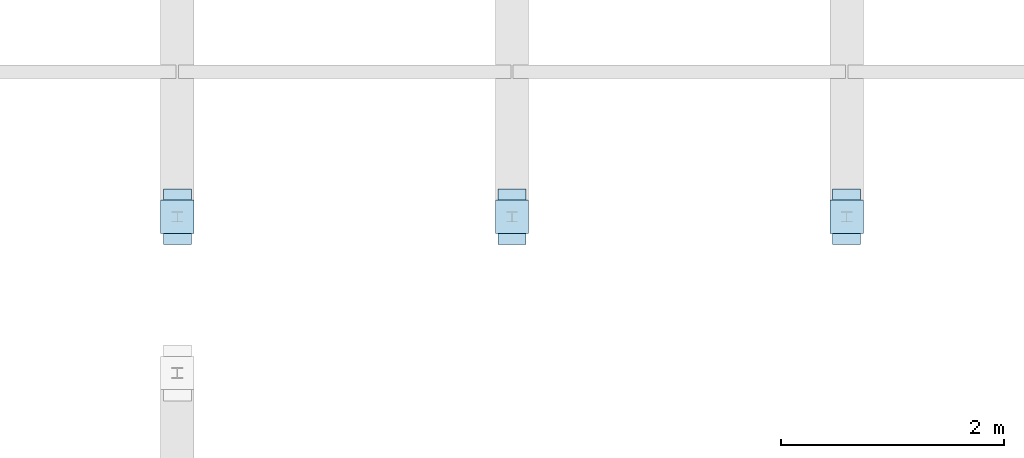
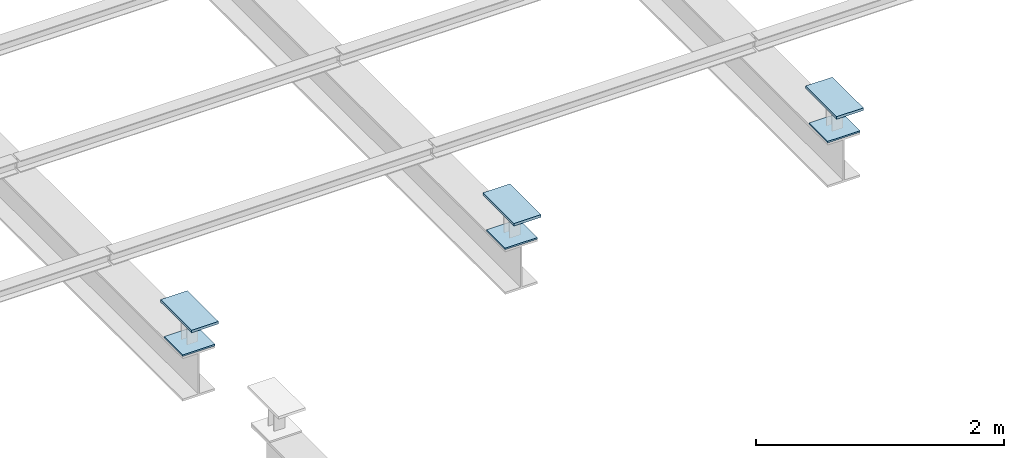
# One storey, part 126 of 139: 6 plates.
"""IFC2X3 building model written with IfcOpenShell, lengths in metres."""

from ifc_helpers import new_model, entity, si_unit, converted_unit, derived_unit, frame, origin, place, context, subcontext, project, spatial, faceted_brep, material, element, save


model = new_model("IFC2X3")

# Units and contexts
model_context = context("Model", 3, precision=1e-05, world=origin())
body_context = subcontext(model_context, "Body", "Model", "MODEL_VIEW")
ifc_project = project(units=[si_unit("LENGTHUNIT", "METRE"), si_unit("AREAUNIT", "SQUARE_METRE"), si_unit("VOLUMEUNIT", "CUBIC_METRE"), si_unit("MASSUNIT", "GRAM", prefix="KILO"), converted_unit("PLANEANGLEUNIT", "DEGREE", entity("IfcPlaneAngleMeasure", 0.0174532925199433), si_unit("PLANEANGLEUNIT", "RADIAN"), dimensions=[0, 0, 0, 0, 0, 0, 0]), derived_unit("THERMALTRANSMITTANCEUNIT", [(si_unit("POWERUNIT", "WATT"), 1), (si_unit("THERMODYNAMICTEMPERATUREUNIT", "KELVIN"), -1), (si_unit("LENGTHUNIT", "METRE"), -2)]), derived_unit("VOLUMETRICFLOWRATEUNIT", [(si_unit("LENGTHUNIT", "METRE"), 3), (converted_unit("TIMEUNIT", "hour", entity("IfcTimeMeasure", 3600.0), si_unit("TIMEUNIT", "SECOND"), dimensions=[0, 0, 1, 0, 0, 0, 0]), -1), (si_unit("LENGTHUNIT", "METRE"), -1)])], contexts=[model_context])

# Site, building, storey
site_placement = place(None, origin())
site = spatial("IfcSite", under=ifc_project, at=site_placement, Name="TWP_Speiseverteilzentrum SBW VZ II", CompositionType="ELEMENT")
building_placement = place(site_placement, origin())
building = spatial("IfcBuilding", under=site, at=building_placement, Name="Speiseverteilzentrum SBW VZ II", CompositionType="ELEMENT")
storey_placement = place(building_placement, frame((0.0, 0.0, 7.1307)))
storey = spatial("IfcBuildingStorey", under=building, at=storey_placement, Name="Wartung_FFB", CompositionType="ELEMENT", Elevation=7.1307)

# Plates
ifc_material_1 = material(Name="S235")
plate_1_placement = place(storey_placement, frame((66.9000000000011, 52.1500000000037, -0.189999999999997)))
element("IfcPlate", 1, at=plate_1_placement, inside=storey, material=ifc_material_1, Name="Verbindungsstück", context=body_context, shape_type="Brep", body=[
    faceted_brep([(0.0, 0.0, 0.015), (0.0, 0.0, 0.0), (0.0, 0.3, 0.0), (0.0, 0.3, 0.015), (0.3, 0.0, 0.015), (0.3, 0.0, 0.0), (0.3, 0.3, 0.015), (0.3, 0.3, 0.0)], [[[0, 1, 2, 3]], [[0, 4, 5, 1]], [[4, 6, 7, 5]], [[6, 3, 2, 7]], [[6, 4, 0, 3]], [[2, 1, 5, 7]]], orient=[[False], [False], [False], [False], [False], [False]]),
])
ifc_material_2 = material(Name="S235")
plate_2_placement = place(storey_placement, frame((69.9000000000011, 52.1500000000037, -0.189999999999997)))
element("IfcPlate", 2, at=plate_2_placement, inside=storey, material=ifc_material_2, Name="Verbindungsstück", context=body_context, shape_type="Brep", body=[
    faceted_brep([(0.0, 0.0, 0.015), (0.0, 0.0, 0.0), (0.0, 0.3, 0.0), (0.0, 0.3, 0.015), (0.3, 0.0, 0.015), (0.3, 0.0, 0.0), (0.3, 0.3, 0.015), (0.3, 0.3, 0.0)], [[[0, 1, 2, 3]], [[0, 4, 5, 1]], [[4, 6, 7, 5]], [[6, 3, 2, 7]], [[6, 4, 0, 3]], [[2, 1, 5, 7]]], orient=[[False], [False], [False], [False], [False], [False]]),
])
ifc_material_3 = material(Name="S235")
plate_3_placement = place(storey_placement, frame((72.9000000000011, 52.1500000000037, -0.189999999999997)))
element("IfcPlate", 3, at=plate_3_placement, inside=storey, material=ifc_material_3, Name="Verbindungsstück", context=body_context, shape_type="Brep", body=[
    faceted_brep([(0.0, 0.0, 0.015), (0.0, 0.0, 0.0), (0.0, 0.3, 0.0), (0.0, 0.3, 0.015), (0.3, 0.0, 0.015), (0.3, 0.0, 0.0), (0.3, 0.3, 0.015), (0.3, 0.3, 0.0)], [[[0, 1, 2, 3]], [[0, 4, 5, 1]], [[4, 6, 7, 5]], [[6, 3, 2, 7]], [[6, 4, 0, 3]], [[2, 1, 5, 7]]], orient=[[False], [False], [False], [False], [False], [False]]),
])
ifc_material_4 = material(Name="S235")
plate_4_placement = place(storey_placement, frame((66.9250000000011, 52.0500000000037, 0.0942999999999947)))
element("IfcPlate", 4, at=plate_4_placement, inside=storey, material=ifc_material_4, Name="Verbindungsstück", context=body_context, shape_type="Brep", body=[
    faceted_brep([(0.0, 0.0, 0.025), (0.0, 0.0, 0.0), (0.0, 0.5, 0.0), (0.0, 0.5, 0.025), (0.25, 0.0, 0.025), (0.25, 0.0, 0.0), (0.25, 0.5, 0.025), (0.25, 0.5, 0.0)], [[[0, 1, 2, 3]], [[0, 4, 5, 1]], [[4, 6, 7, 5]], [[6, 3, 2, 7]], [[6, 4, 0, 3]], [[2, 1, 5, 7]]], orient=[[False], [False], [False], [False], [False], [False]]),
])
ifc_material_5 = material(Name="S235")
plate_5_placement = place(storey_placement, frame((69.9250000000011, 52.0500000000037, 0.0942999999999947)))
element("IfcPlate", 5, at=plate_5_placement, inside=storey, material=ifc_material_5, Name="Verbindungsstück", context=body_context, shape_type="Brep", body=[
    faceted_brep([(0.0, 0.0, 0.025), (0.0, 0.0, 0.0), (0.0, 0.5, 0.0), (0.0, 0.5, 0.025), (0.25, 0.0, 0.025), (0.25, 0.0, 0.0), (0.25, 0.5, 0.025), (0.25, 0.5, 0.0)], [[[0, 1, 2, 3]], [[0, 4, 5, 1]], [[4, 6, 7, 5]], [[6, 3, 2, 7]], [[6, 4, 0, 3]], [[2, 1, 5, 7]]], orient=[[False], [False], [False], [False], [False], [False]]),
])
ifc_material_6 = material(Name="S235")
plate_6_placement = place(storey_placement, frame((72.9250000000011, 52.0500000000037, 0.0942999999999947)))
element("IfcPlate", 6, at=plate_6_placement, inside=storey, material=ifc_material_6, Name="Verbindungsstück", context=body_context, shape_type="Brep", body=[
    faceted_brep([(0.0, 0.0, 0.025), (0.0, 0.0, 0.0), (0.0, 0.5, 0.0), (0.0, 0.5, 0.025), (0.25, 0.0, 0.025), (0.25, 0.0, 0.0), (0.25, 0.5, 0.025), (0.25, 0.5, 0.0)], [[[0, 1, 2, 3]], [[0, 4, 5, 1]], [[4, 6, 7, 5]], [[6, 3, 2, 7]], [[6, 4, 0, 3]], [[2, 1, 5, 7]]], orient=[[False], [False], [False], [False], [False], [False]]),
])

save(model, "model.ifc")
